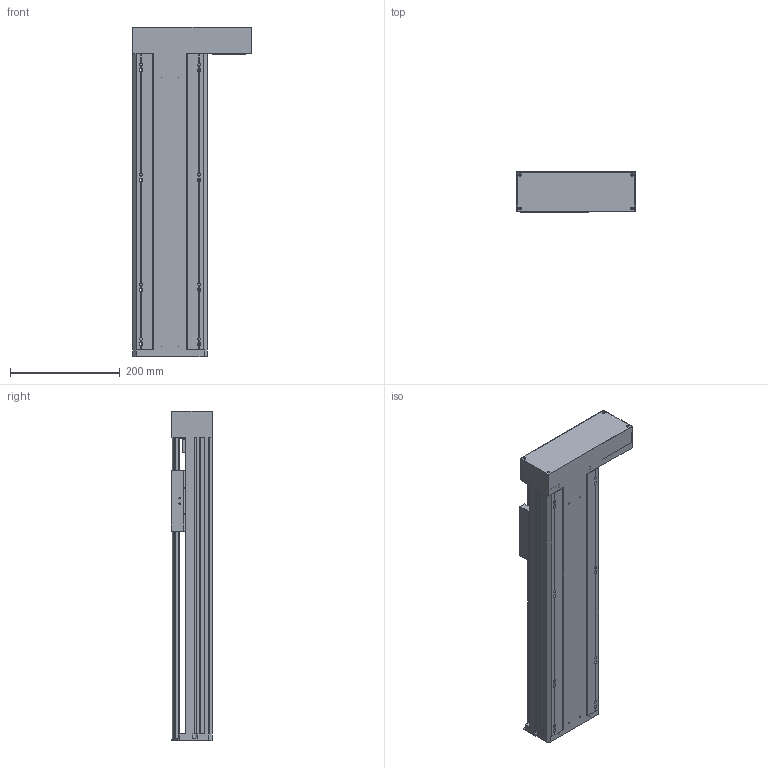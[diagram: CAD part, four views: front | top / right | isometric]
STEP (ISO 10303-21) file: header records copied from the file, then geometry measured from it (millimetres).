
FILE_DESCRIPTION(/* description */ (''),/* implementation_level */ '2;1');
FILE_NAME(/* name */ 'TKA136-FR-350_asm1_stp.stp',/* time_stamp */ '2016-09-08T14:34:08+08:00',/* author */ (''),/* organization */ (''),/* preprocessor_version */ 'ST-DEVELOPER v15',/* originating_system */ 'SIEMENS PLM Software NX 8.5',/* authorisation */ '');
FILE_SCHEMA (('AUTOMOTIVE_DESIGN { 1 0 10303 214 3 1 1 1 }'));
Length unit declared in the file: millimetre
Products named in the file (3): 100-02; 100-01; TKA136-FR-350_asm1_stp
Assembly tree (2 placements, depth 2):
  TKA136-FR-350_asm1_stp
    100-01
    100-02
Bounding box: 216 x 75 x 600 mm (x, y, z)
Volume: 2047809.9 mm3; surface area: 798990.1 mm2
Topology: 2 solids, 12 shells, 865 faces, 2377 edges, 1542 vertices
Faces by surface type: plane 413, cylinder 399, cone 53
Full cylindrical faces by diameter (mm): 2.5 x4, 3 x2, 3.3 x15, 4 x4, 4.2 x14, 4.5 x26, 5 x12, 5.5 x26, 6.6 x12, 8 x20, 10 x9, 10.5 x8, 11 x4, 11.6 x1, 12 x9, 15 x3, 16 x5, 17 x1, 24 x5, 26 x1, 28 x1, 46 x2, 50 x1
Entity records: 28423 total; most frequent: CARTESIAN_POINT 7332, DIRECTION 4397, ORIENTED_EDGE 4062, EDGE_CURVE 2031, AXIS2_PLACEMENT_3D 1673, VERTEX_POINT 1459, EDGE_LOOP 1271, LINE 1051
